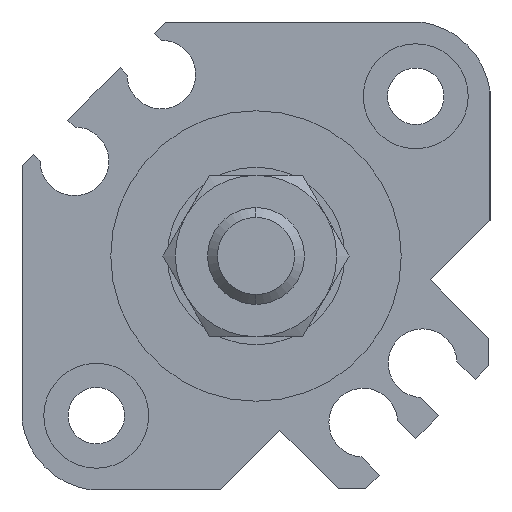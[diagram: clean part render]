
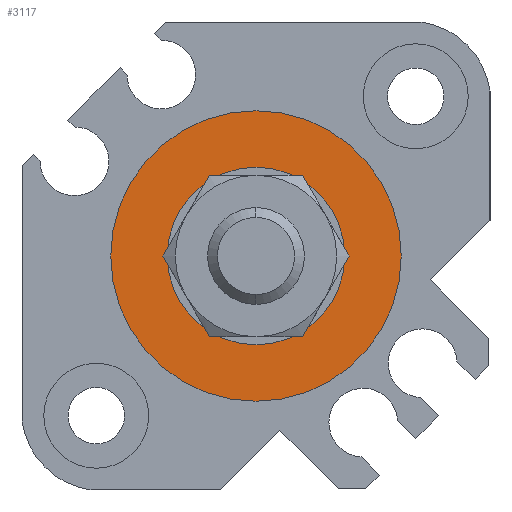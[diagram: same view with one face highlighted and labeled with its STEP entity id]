
A CAD part, left-side view. The second image highlights one B-rep face of the part: STEP entity #3117.
In plain terms, the highlighted planar face has unit normal (-1, 0, 0).
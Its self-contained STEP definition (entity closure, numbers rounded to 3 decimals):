
#46 = EDGE_LOOP ( 'NONE', ( #3858, #224 ) ) ;
#114 = DIRECTION ( 'NONE',  ( 1., 0., 0. ) ) ;
#185 = DIRECTION ( 'NONE',  ( 0., 0., -1. ) ) ;
#224 = ORIENTED_EDGE ( 'NONE', *, *, #2400, .F. ) ;
#265 = ORIENTED_EDGE ( 'NONE', *, *, #4431, .T. ) ;
#267 = CARTESIAN_POINT ( 'NONE',  ( 1.1, 0., 0. ) ) ;
#315 = DIRECTION ( 'NONE',  ( 0., 0., -1. ) ) ;
#376 = DIRECTION ( 'NONE',  ( 0., 1., 0. ) ) ;
#401 = CARTESIAN_POINT ( 'NONE',  ( 1.1, 0., 0. ) ) ;
#721 = DIRECTION ( 'NONE',  ( 0., 0., -1. ) ) ;
#774 = FACE_OUTER_BOUND ( 'NONE', #46, .T. ) ;
#845 = CIRCLE ( 'NONE', #3720, 9. ) ;
#1220 = DIRECTION ( 'NONE',  ( 1., 0., 0. ) ) ;
#1416 = VERTEX_POINT ( 'NONE', #2799 ) ;
#1706 = AXIS2_PLACEMENT_3D ( 'NONE', #2599, #114, #185 ) ;
#1845 = VERTEX_POINT ( 'NONE', #3398 ) ;
#2386 = FACE_BOUND ( 'NONE', #2655, .T. ) ;
#2400 = EDGE_CURVE ( 'NONE', #1416, #3862, #845, .T. ) ;
#2599 = CARTESIAN_POINT ( 'NONE',  ( 1.1, 0., 0. ) ) ;
#2655 = EDGE_LOOP ( 'NONE', ( #4893, #265 ) ) ;
#2777 = VERTEX_POINT ( 'NONE', #3348 ) ;
#2799 = CARTESIAN_POINT ( 'NONE',  ( 1.1, 0., -9. ) ) ;
#3117 = ADVANCED_FACE ( 'NONE', ( #774, #2386 ), #4031, .F. ) ;
#3226 = CIRCLE ( 'NONE', #3664, 5.5 ) ;
#3287 = CARTESIAN_POINT ( 'NONE',  ( 1.1, 0., 0. ) ) ;
#3314 = EDGE_CURVE ( 'NONE', #2777, #1845, #3226, .T. ) ;
#3348 = CARTESIAN_POINT ( 'NONE',  ( 1.1, 0., 5.5 ) ) ;
#3398 = CARTESIAN_POINT ( 'NONE',  ( 1.1, 0., -5.5 ) ) ;
#3557 = AXIS2_PLACEMENT_3D ( 'NONE', #3287, #4137, #4904 ) ;
#3664 = AXIS2_PLACEMENT_3D ( 'NONE', #4333, #1220, #315 ) ;
#3720 = AXIS2_PLACEMENT_3D ( 'NONE', #267, #4318, #721 ) ;
#3858 = ORIENTED_EDGE ( 'NONE', *, *, #4016, .F. ) ;
#3862 = VERTEX_POINT ( 'NONE', #5204 ) ;
#3874 = AXIS2_PLACEMENT_3D ( 'NONE', #401, #4003, #376 ) ;
#3980 = CIRCLE ( 'NONE', #1706, 9. ) ;
#4003 = DIRECTION ( 'NONE',  ( 1., 0., 0. ) ) ;
#4016 = EDGE_CURVE ( 'NONE', #3862, #1416, #3980, .T. ) ;
#4031 = PLANE ( 'NONE',  #3874 ) ;
#4137 = DIRECTION ( 'NONE',  ( 1., 0., 0. ) ) ;
#4318 = DIRECTION ( 'NONE',  ( 1., 0., 0. ) ) ;
#4333 = CARTESIAN_POINT ( 'NONE',  ( 1.1, 0., 0. ) ) ;
#4431 = EDGE_CURVE ( 'NONE', #1845, #2777, #5078, .T. ) ;
#4893 = ORIENTED_EDGE ( 'NONE', *, *, #3314, .T. ) ;
#4904 = DIRECTION ( 'NONE',  ( 0., 0., -1. ) ) ;
#5078 = CIRCLE ( 'NONE', #3557, 5.5 ) ;
#5204 = CARTESIAN_POINT ( 'NONE',  ( 1.1, 0., 9. ) ) ;
